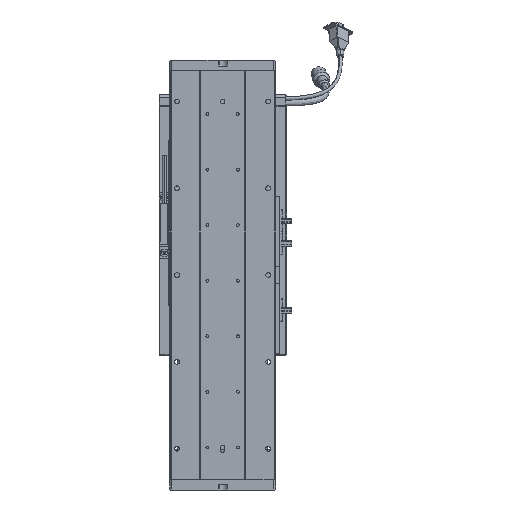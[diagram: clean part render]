
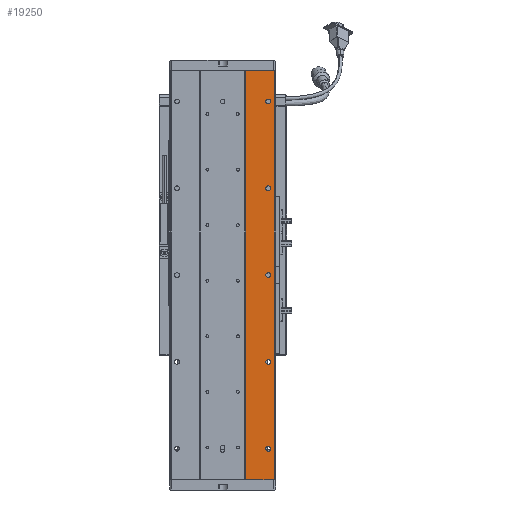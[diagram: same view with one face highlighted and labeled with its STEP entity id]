
A CAD part, front view. The second image highlights one B-rep face of the part: STEP entity #19250.
In plain terms, the highlighted planar face has unit normal (0, -1, 0).
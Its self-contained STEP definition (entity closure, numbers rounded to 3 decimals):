
#71 = LINE ( 'NONE', #21571, #52966 ) ;
#769 = DIRECTION ( 'NONE',  ( 0., 1., 0. ) ) ;
#935 = DIRECTION ( 'NONE',  ( 0., 0., 1. ) ) ;
#1724 = CARTESIAN_POINT ( 'NONE',  ( 207.625, 76.768, 235.5 ) ) ;
#1964 = ORIENTED_EDGE ( 'NONE', *, *, #35205, .T. ) ;
#4144 = CARTESIAN_POINT ( 'NONE',  ( 84.971, 76.768, 471. ) ) ;
#4335 = VERTEX_POINT ( 'NONE', #71808 ) ;
#4637 = CIRCLE ( 'NONE', #45642, 2.75 ) ;
#4762 = CARTESIAN_POINT ( 'NONE',  ( 181.625, 76.768, 471. ) ) ;
#4988 = CARTESIAN_POINT ( 'NONE',  ( 207.625, 76.768, 138.25 ) ) ;
#6097 = ORIENTED_EDGE ( 'NONE', *, *, #59212, .T. ) ;
#6704 = DIRECTION ( 'NONE',  ( 0., 0., -1. ) ) ;
#7365 = FACE_BOUND ( 'NONE', #56229, .T. ) ;
#7389 = VERTEX_POINT ( 'NONE', #30699 ) ;
#7473 = VERTEX_POINT ( 'NONE', #4762 ) ;
#7607 = ORIENTED_EDGE ( 'NONE', *, *, #37192, .T. ) ;
#8001 = AXIS2_PLACEMENT_3D ( 'NONE', #9624, #59767, #20251 ) ;
#8504 = DIRECTION ( 'NONE',  ( 0., 1., 0. ) ) ;
#8650 = ORIENTED_EDGE ( 'NONE', *, *, #39859, .T. ) ;
#9364 = CIRCLE ( 'NONE', #19772, 2.75 ) ;
#9624 = CARTESIAN_POINT ( 'NONE',  ( 207.625, 76.768, 235.5 ) ) ;
#12333 = CARTESIAN_POINT ( 'NONE',  ( 207.625, 76.768, 35.5 ) ) ;
#13461 = EDGE_CURVE ( 'NONE', #21469, #69042, #39403, .T. ) ;
#13504 = AXIS2_PLACEMENT_3D ( 'NONE', #1724, #68059, #23536 ) ;
#16143 = AXIS2_PLACEMENT_3D ( 'NONE', #30792, #8504, #47275 ) ;
#16254 = CARTESIAN_POINT ( 'NONE',  ( 207.625, 76.768, 335.5 ) ) ;
#16711 = ORIENTED_EDGE ( 'NONE', *, *, #19869, .F. ) ;
#17714 = CARTESIAN_POINT ( 'NONE',  ( 214.532, 76.768, 0. ) ) ;
#18555 = CARTESIAN_POINT ( 'NONE',  ( 207.625, 76.768, 335.5 ) ) ;
#18578 = DIRECTION ( 'NONE',  ( 0., 1., 0. ) ) ;
#19158 = AXIS2_PLACEMENT_3D ( 'NONE', #57051, #29913, #40098 ) ;
#19250 = ADVANCED_FACE ( 'NONE', ( #7365, #49832, #29063, #42028, #35098, #62799 ), #46789, .F. ) ;
#19772 = AXIS2_PLACEMENT_3D ( 'NONE', #59479, #33294, #49520 ) ;
#19869 = EDGE_CURVE ( 'NONE', #30311, #38278, #26360, .T. ) ;
#20251 = DIRECTION ( 'NONE',  ( 0., 0., 1. ) ) ;
#20807 = DIRECTION ( 'NONE',  ( -1., 0., 0. ) ) ;
#20960 = DIRECTION ( 'NONE',  ( 0., 0., 1. ) ) ;
#21469 = VERTEX_POINT ( 'NONE', #4988 ) ;
#21571 = CARTESIAN_POINT ( 'NONE',  ( 0., 76.768, 0. ) ) ;
#22095 = ORIENTED_EDGE ( 'NONE', *, *, #31705, .F. ) ;
#22238 = EDGE_CURVE ( 'NONE', #4335, #41778, #55520, .T. ) ;
#22639 = EDGE_CURVE ( 'NONE', #37583, #7389, #59770, .T. ) ;
#22814 = AXIS2_PLACEMENT_3D ( 'NONE', #60220, #32616, #20960 ) ;
#23536 = DIRECTION ( 'NONE',  ( 0., 0., 1. ) ) ;
#25324 = ORIENTED_EDGE ( 'NONE', *, *, #55837, .T. ) ;
#25686 = CARTESIAN_POINT ( 'NONE',  ( 207.625, 76.768, 32.75 ) ) ;
#26360 = LINE ( 'NONE', #56307, #44578 ) ;
#26670 = AXIS2_PLACEMENT_3D ( 'NONE', #35305, #18578, #62438 ) ;
#27996 = DIRECTION ( 'NONE',  ( 0., 0., -1. ) ) ;
#29063 = FACE_BOUND ( 'NONE', #36304, .T. ) ;
#29236 = ORIENTED_EDGE ( 'NONE', *, *, #59511, .T. ) ;
#29389 = LINE ( 'NONE', #4144, #61465 ) ;
#29913 = DIRECTION ( 'NONE',  ( 0., 1., 0. ) ) ;
#30311 = VERTEX_POINT ( 'NONE', #59378 ) ;
#30699 = CARTESIAN_POINT ( 'NONE',  ( 207.625, 76.768, 438.25 ) ) ;
#30792 = CARTESIAN_POINT ( 'NONE',  ( 84.971, 76.768, 0. ) ) ;
#31705 = EDGE_CURVE ( 'NONE', #38278, #34158, #71, .T. ) ;
#32616 = DIRECTION ( 'NONE',  ( 0., 1., 0. ) ) ;
#32643 = ORIENTED_EDGE ( 'NONE', *, *, #13461, .T. ) ;
#32749 = EDGE_CURVE ( 'NONE', #41778, #4335, #69237, .T. ) ;
#32824 = AXIS2_PLACEMENT_3D ( 'NONE', #18555, #34351, #56396 ) ;
#33294 = DIRECTION ( 'NONE',  ( 0., 1., 0. ) ) ;
#34158 = VERTEX_POINT ( 'NONE', #41784 ) ;
#34351 = DIRECTION ( 'NONE',  ( 0., 1., 0. ) ) ;
#35039 = EDGE_LOOP ( 'NONE', ( #7607, #25324 ) ) ;
#35098 = FACE_BOUND ( 'NONE', #66079, .T. ) ;
#35123 = ORIENTED_EDGE ( 'NONE', *, *, #43924, .T. ) ;
#35205 = EDGE_CURVE ( 'NONE', #42092, #67956, #48113, .T. ) ;
#35305 = CARTESIAN_POINT ( 'NONE',  ( 207.625, 76.768, 35.5 ) ) ;
#35347 = CARTESIAN_POINT ( 'NONE',  ( 207.625, 76.768, 132.75 ) ) ;
#36304 = EDGE_LOOP ( 'NONE', ( #1964, #8650 ) ) ;
#37192 = EDGE_CURVE ( 'NONE', #40357, #64013, #70375, .T. ) ;
#37583 = VERTEX_POINT ( 'NONE', #70593 ) ;
#38278 = VERTEX_POINT ( 'NONE', #17714 ) ;
#39366 = EDGE_LOOP ( 'NONE', ( #6097, #22095, #16711, #35123 ) ) ;
#39403 = CIRCLE ( 'NONE', #22814, 2.75 ) ;
#39859 = EDGE_CURVE ( 'NONE', #67956, #42092, #50639, .T. ) ;
#40059 = ORIENTED_EDGE ( 'NONE', *, *, #32749, .T. ) ;
#40098 = DIRECTION ( 'NONE',  ( 0., 0., 1. ) ) ;
#40357 = VERTEX_POINT ( 'NONE', #51685 ) ;
#40421 = CARTESIAN_POINT ( 'NONE',  ( 207.625, 76.768, 38.25 ) ) ;
#41778 = VERTEX_POINT ( 'NONE', #71185 ) ;
#41784 = CARTESIAN_POINT ( 'NONE',  ( 181.625, 76.768, 0. ) ) ;
#41870 = EDGE_LOOP ( 'NONE', ( #32643, #29236 ) ) ;
#42028 = FACE_BOUND ( 'NONE', #41870, .T. ) ;
#42092 = VERTEX_POINT ( 'NONE', #40421 ) ;
#42519 = CARTESIAN_POINT ( 'NONE',  ( 207.625, 76.768, 332.75 ) ) ;
#42683 = ORIENTED_EDGE ( 'NONE', *, *, #57203, .T. ) ;
#43924 = EDGE_CURVE ( 'NONE', #30311, #7473, #29389, .T. ) ;
#44578 = VECTOR ( 'NONE', #27996, 1000. ) ;
#44800 = DIRECTION ( 'NONE',  ( 0., 1., 0. ) ) ;
#45642 = AXIS2_PLACEMENT_3D ( 'NONE', #16254, #769, #55766 ) ;
#46789 = PLANE ( 'NONE',  #16143 ) ;
#46818 = AXIS2_PLACEMENT_3D ( 'NONE', #12333, #44800, #935 ) ;
#47275 = DIRECTION ( 'NONE',  ( 0., 0., 1. ) ) ;
#48113 = CIRCLE ( 'NONE', #26670, 2.75 ) ;
#49229 = DIRECTION ( 'NONE',  ( -1., 0., 0. ) ) ;
#49266 = LINE ( 'NONE', #56849, #64802 ) ;
#49520 = DIRECTION ( 'NONE',  ( 0., 0., 1. ) ) ;
#49832 = FACE_BOUND ( 'NONE', #35039, .T. ) ;
#50639 = CIRCLE ( 'NONE', #46818, 2.75 ) ;
#51685 = CARTESIAN_POINT ( 'NONE',  ( 207.625, 76.768, 338.25 ) ) ;
#51739 = ORIENTED_EDGE ( 'NONE', *, *, #22639, .T. ) ;
#52966 = VECTOR ( 'NONE', #49229, 1000. ) ;
#53009 = ORIENTED_EDGE ( 'NONE', *, *, #22238, .T. ) ;
#54882 = CARTESIAN_POINT ( 'NONE',  ( 207.625, 76.768, 435.5 ) ) ;
#55520 = CIRCLE ( 'NONE', #13504, 2.75 ) ;
#55766 = DIRECTION ( 'NONE',  ( 0., 0., 1. ) ) ;
#55837 = EDGE_CURVE ( 'NONE', #64013, #40357, #4637, .T. ) ;
#56229 = EDGE_LOOP ( 'NONE', ( #42683, #51739 ) ) ;
#56307 = CARTESIAN_POINT ( 'NONE',  ( 214.532, 76.768, 471. ) ) ;
#56396 = DIRECTION ( 'NONE',  ( 0., 0., 1. ) ) ;
#56565 = DIRECTION ( 'NONE',  ( 0., 0., 1. ) ) ;
#56795 = DIRECTION ( 'NONE',  ( 0., 1., 0. ) ) ;
#56849 = CARTESIAN_POINT ( 'NONE',  ( 181.625, 76.768, 471. ) ) ;
#57051 = CARTESIAN_POINT ( 'NONE',  ( 207.625, 76.768, 435.5 ) ) ;
#57203 = EDGE_CURVE ( 'NONE', #7389, #37583, #70291, .T. ) ;
#59212 = EDGE_CURVE ( 'NONE', #7473, #34158, #49266, .T. ) ;
#59378 = CARTESIAN_POINT ( 'NONE',  ( 214.532, 76.768, 471. ) ) ;
#59479 = CARTESIAN_POINT ( 'NONE',  ( 207.625, 76.768, 135.5 ) ) ;
#59511 = EDGE_CURVE ( 'NONE', #69042, #21469, #9364, .T. ) ;
#59767 = DIRECTION ( 'NONE',  ( 0., 1., 0. ) ) ;
#59770 = CIRCLE ( 'NONE', #68730, 2.75 ) ;
#60220 = CARTESIAN_POINT ( 'NONE',  ( 207.625, 76.768, 135.5 ) ) ;
#61465 = VECTOR ( 'NONE', #20807, 1000. ) ;
#62438 = DIRECTION ( 'NONE',  ( 0., 0., 1. ) ) ;
#62799 = FACE_OUTER_BOUND ( 'NONE', #39366, .T. ) ;
#64013 = VERTEX_POINT ( 'NONE', #42519 ) ;
#64802 = VECTOR ( 'NONE', #6704, 1000. ) ;
#66079 = EDGE_LOOP ( 'NONE', ( #40059, #53009 ) ) ;
#67956 = VERTEX_POINT ( 'NONE', #25686 ) ;
#68059 = DIRECTION ( 'NONE',  ( 0., 1., 0. ) ) ;
#68730 = AXIS2_PLACEMENT_3D ( 'NONE', #54882, #56795, #56565 ) ;
#69042 = VERTEX_POINT ( 'NONE', #35347 ) ;
#69237 = CIRCLE ( 'NONE', #8001, 2.75 ) ;
#70291 = CIRCLE ( 'NONE', #19158, 2.75 ) ;
#70375 = CIRCLE ( 'NONE', #32824, 2.75 ) ;
#70593 = CARTESIAN_POINT ( 'NONE',  ( 207.625, 76.768, 432.75 ) ) ;
#71185 = CARTESIAN_POINT ( 'NONE',  ( 207.625, 76.768, 238.25 ) ) ;
#71808 = CARTESIAN_POINT ( 'NONE',  ( 207.625, 76.768, 232.75 ) ) ;
